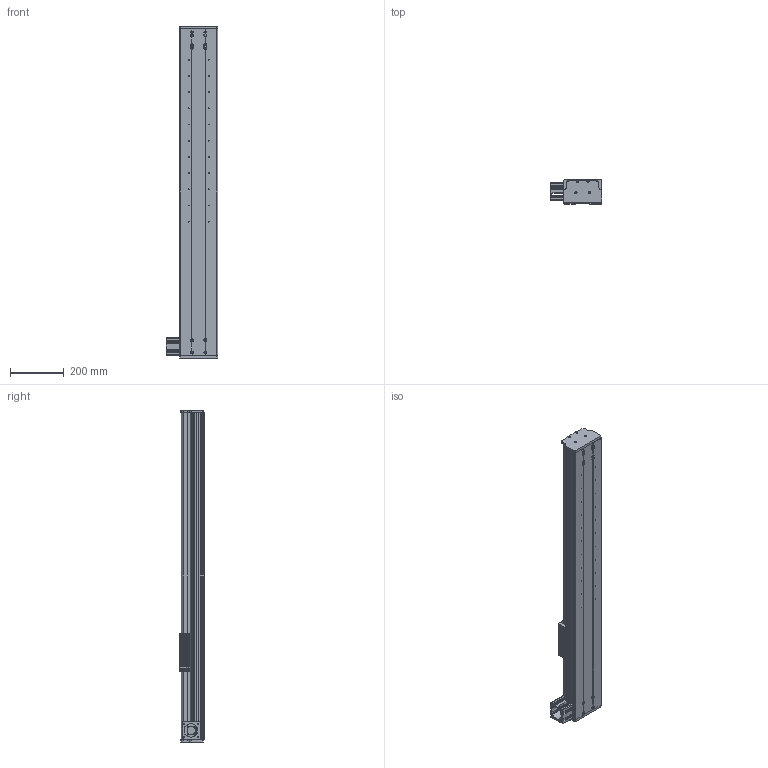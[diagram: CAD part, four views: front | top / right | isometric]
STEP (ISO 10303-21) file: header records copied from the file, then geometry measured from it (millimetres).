
FILE_DESCRIPTION (( 'STEP AP203' ), '1' );
FILE_NAME ('CF140B肮祭湍900俴最.STEP', '2020-06-13T02:09:15', ( 'Micorosoft' ), ( 'Micorosoft' ), 'SwSTEP 2.0', 'SolidWorks 2016', '' );
FILE_SCHEMA (( 'CONFIG_CONTROL_DESIGN' ));
Length unit declared in the file: millimetre
Products named in the file (11): 6060-3232源臏奪-植雄釱; 菁釱; 6060-3232源臏奪-萇儂釱; 15賑輸; CF140B肮祭湍900俴最; 15絳寢; CF140蹟譫釱; CF140賑雄啣; CF140裔啣; CF140萇儂啣; 6060-3232源臏奪-翋雄釱
Assembly tree (15 placements, depth 2):
  CF140B肮祭湍900俴最
    菁釱
    15賑輸  x4
    15絳寢  x2
    CF140蹟譫釱
    CF140賑雄啣
    CF140裔啣
    CF140萇儂啣  x2
    6060-3232源臏奪-翋雄釱
    6060-3232源臏奪-植雄釱
    6060-3232源臏奪-萇儂釱
Bounding box: 189.55 x 89.5 x 1230 mm (x, y, z)
Volume: 5345403.9 mm3; surface area: 1908959.1 mm2
Topology: 15 solids, 15 shells, 1688 faces, 4788 edges, 3130 vertices
Faces by surface type: cylinder 860, plane 760, cone 68
Entity records: 52285 total; most frequent: CARTESIAN_POINT 9850, DIRECTION 8823, ORIENTED_EDGE 8630, EDGE_CURVE 4315, AXIS2_PLACEMENT_3D 3110, VERTEX_POINT 2864, VECTOR 2603, LINE 2603
